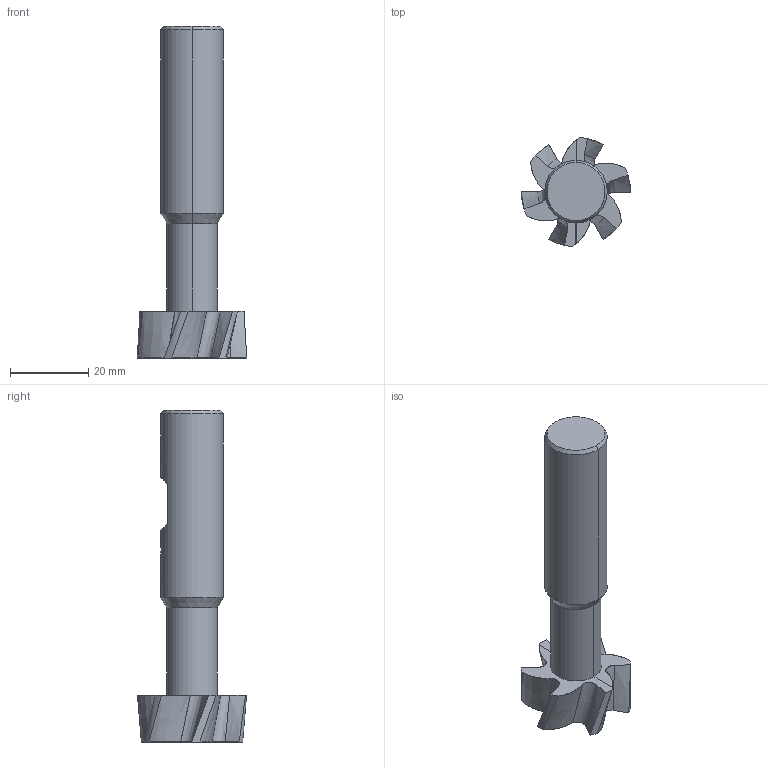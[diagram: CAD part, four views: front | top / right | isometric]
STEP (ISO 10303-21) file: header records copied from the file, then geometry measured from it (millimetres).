
FILE_DESCRIPTION(('no description'),'unknown implementation level');
FILE_NAME('solid6tDt1UsFfq1YS9zKlNUAP4T889M_1.STP',' ',('CIMSOURCE GmbH'),('CADClick - KiM GmbH - www.kimweb.de'),'unknown preprocess','ACIS','unknown authorization');
FILE_SCHEMA(('automotive_design'));
Length unit declared in the file: millimetre
Products named in the file (2): NOCUT; CUT
Bounding box: 28 x 27.93 x 85 mm (x, y, z)
Volume: 17221.2 mm3; surface area: 7507.3 mm2
Topology: 2 solids, 2 shells, 118 faces, 330 edges, 216 vertices
Faces by surface type: bspline 72, cylinder 22, cone 12, plane 12
Entity records: 17100 total; most frequent: CARTESIAN_POINT 10956, STYLED_ITEM 666, PRESENTATION_STYLE_ASSIGNMENT 666, COLOUR_RGB 666, ORIENTED_EDGE 660, EDGE_CURVE 330, CURVE_STYLE 330, DRAUGHTING_PRE_DEFINED_CURVE_FONT 330
